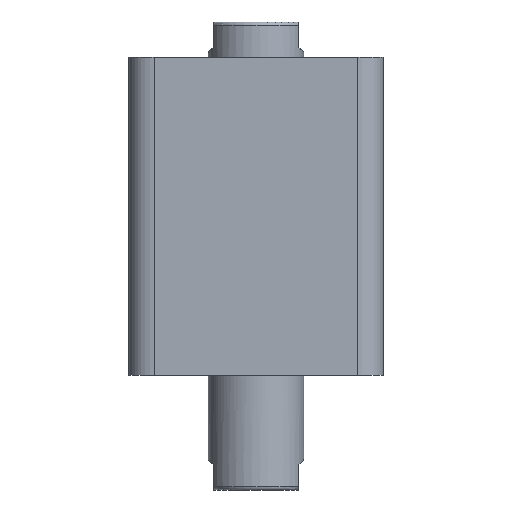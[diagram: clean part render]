
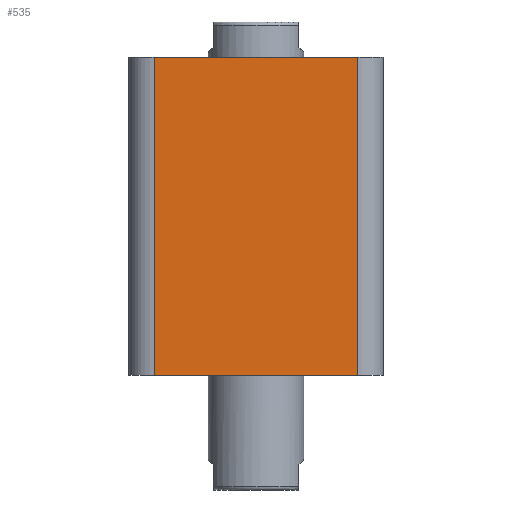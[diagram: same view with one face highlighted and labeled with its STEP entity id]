
A CAD part, front view. The second image highlights one B-rep face of the part: STEP entity #535.
In plain terms, the highlighted planar face has unit normal (0, -1, 0).
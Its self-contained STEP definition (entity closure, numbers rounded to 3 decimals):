
#110 = CARTESIAN_POINT ( 'NONE',  ( 32., -40., 0. ) ) ;
#115 = CARTESIAN_POINT ( 'NONE',  ( 32., -40., 100. ) ) ;
#155 = CARTESIAN_POINT ( 'NONE',  ( -32., -40., 0. ) ) ;
#260 = DIRECTION ( 'NONE',  ( 0., 0., 1. ) ) ;
#271 = CARTESIAN_POINT ( 'NONE',  ( -40., -40., 0. ) ) ;
#272 = CARTESIAN_POINT ( 'NONE',  ( 32., -40., 100. ) ) ;
#276 = DIRECTION ( 'NONE',  ( 1., 0., 0. ) ) ;
#277 = CARTESIAN_POINT ( 'NONE',  ( -32., -40., 100. ) ) ;
#278 = DIRECTION ( 'NONE',  ( 0., 0., -1. ) ) ;
#279 = CARTESIAN_POINT ( 'NONE',  ( -40., -40., 100. ) ) ;
#280 = DIRECTION ( 'NONE',  ( 1., 0., 0. ) ) ;
#535 = ADVANCED_FACE ( 'NONE', ( #3257 ), #917, .F. ) ;
#914 = DIRECTION ( 'NONE',  ( 0., 0., 1. ) ) ;
#915 = DIRECTION ( 'NONE',  ( 0., 1., 0. ) ) ;
#917 = PLANE ( 'NONE',  #2754 ) ;
#925 = CARTESIAN_POINT ( 'NONE',  ( -40., -40., 100. ) ) ;
#1272 = VERTEX_POINT ( 'NONE', #115 ) ;
#1279 = VERTEX_POINT ( 'NONE', #110 ) ;
#1561 = VERTEX_POINT ( 'NONE', #155 ) ;
#1913 = CARTESIAN_POINT ( 'NONE',  ( -32., -40., 100. ) ) ;
#2458 = LINE ( 'NONE', #272, #2461 ) ;
#2459 = LINE ( 'NONE', #271, #2463 ) ;
#2461 = VECTOR ( 'NONE', #260, 1000. ) ;
#2462 = LINE ( 'NONE', #277, #2465 ) ;
#2463 = VECTOR ( 'NONE', #276, 1000. ) ;
#2464 = LINE ( 'NONE', #279, #2467 ) ;
#2465 = VECTOR ( 'NONE', #278, 1000. ) ;
#2467 = VECTOR ( 'NONE', #280, 1000. ) ;
#2563 = EDGE_CURVE ( 'NONE', #1279, #1272, #2458, .T. ) ;
#2564 = EDGE_CURVE ( 'NONE', #1561, #1279, #2459, .T. ) ;
#2565 = EDGE_CURVE ( 'NONE', #3083, #1561, #2462, .T. ) ;
#2566 = EDGE_CURVE ( 'NONE', #3083, #1272, #2464, .T. ) ;
#2754 = AXIS2_PLACEMENT_3D ( 'NONE', #925, #915, #914 ) ;
#3083 = VERTEX_POINT ( 'NONE', #1913 ) ;
#3167 = ORIENTED_EDGE ( 'NONE', *, *, #2563, .T. ) ;
#3172 = ORIENTED_EDGE ( 'NONE', *, *, #2564, .T. ) ;
#3173 = ORIENTED_EDGE ( 'NONE', *, *, #2565, .T. ) ;
#3202 = EDGE_LOOP ( 'NONE', ( #3214, #3173, #3172, #3167 ) ) ;
#3214 = ORIENTED_EDGE ( 'NONE', *, *, #2566, .F. ) ;
#3257 = FACE_OUTER_BOUND ( 'NONE', #3202, .T. ) ;
